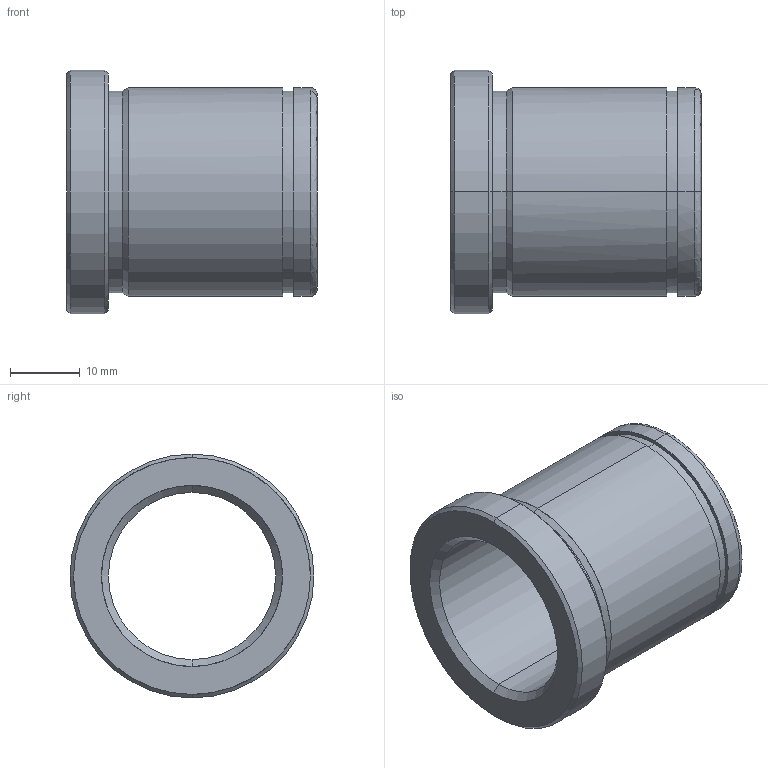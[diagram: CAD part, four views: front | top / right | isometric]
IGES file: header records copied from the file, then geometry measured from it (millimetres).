
Start section: START RECORD GO HERE.
Global section: file name: 553-24X36.igs; native system: DASSAULT SYSTEMES CATIA V5 R20 - www.3ds.com; preprocessor: CATIA Version 5 Release 20 ; author: Utente; organization: NB04-ASUS; date: 20210525.202330; units: millimetre
Bounding box: 36 x 35 x 35 mm (x, y, z)
Surface area: 7163.3 mm2 (no closed solid volume)
Topology: 0 solids, 0 shells, 29 faces, 184 edges, 184 vertices
Faces by surface type: revolution 24, plane 5
